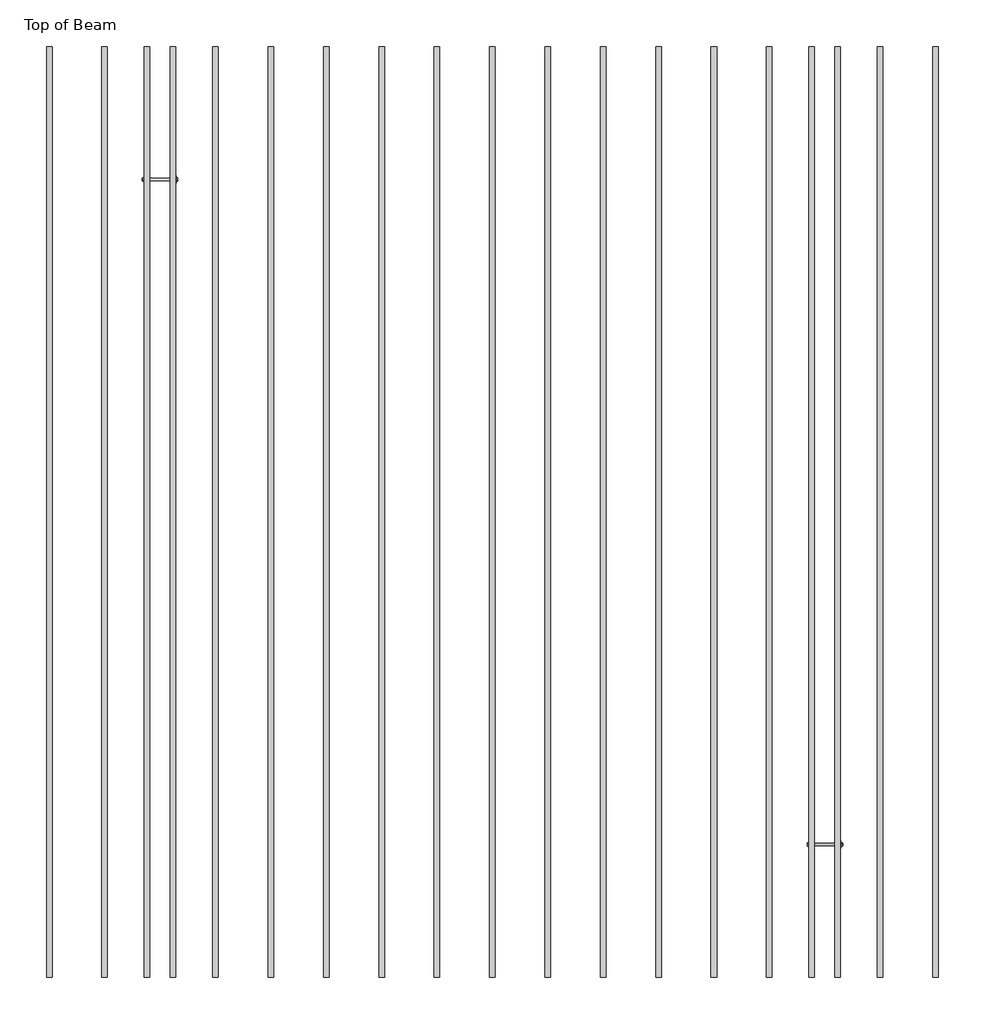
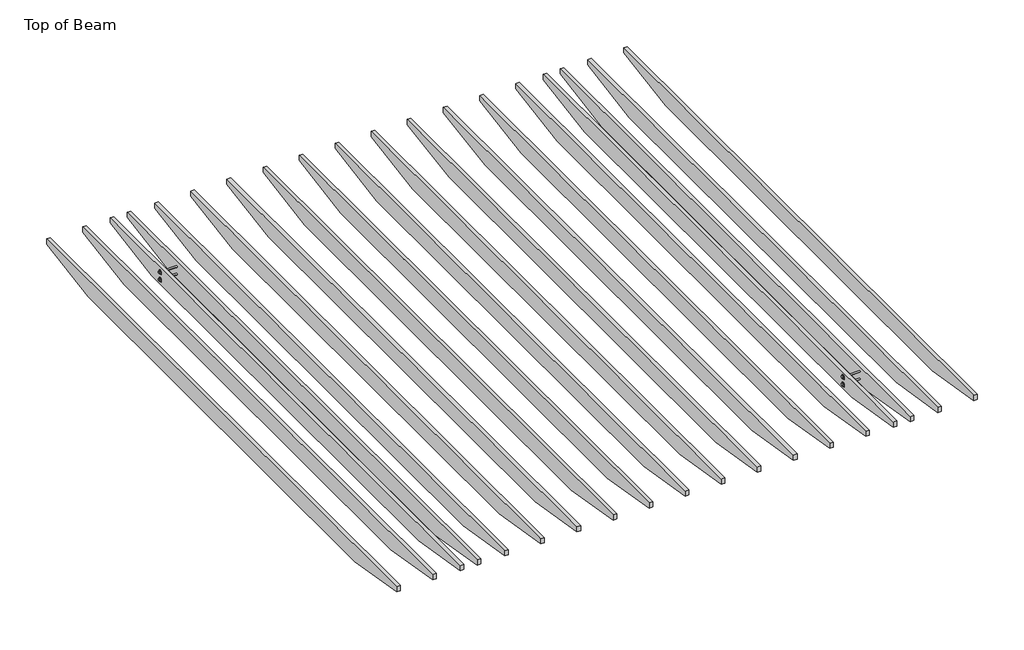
# One storey: 19 beams, 4 proxies.
"""IFC4 building model written with IfcOpenShell, lengths in millimetres."""

from ifc_helpers import new_model, si_unit, origin, place, context, project, spatial, transform, mapped, element, save
from components import x8_c0474165, proxy_280ef96e

model = new_model("IFC4")

# Units and contexts
model_context = context("Model", 3, world=origin())
ifc_project = project(units=[si_unit("LENGTHUNIT", "METRE", prefix="MILLI")], contexts=[model_context])

# Site, building, storey
site = spatial("IfcSite", under=ifc_project)
building = spatial("IfcBuilding", under=site)
storey = spatial("IfcBuildingStorey", under=building, Name="Top of Beam", Elevation=2743.2)

# Beams
placement = place(None, origin())
x8_shape = x8_c0474165(model_context)
element("IfcBeam", 1, ObjectType="Notched Beam : x8", at=placement, inside=storey, context=model_context, shape_type="MappedRepresentation", body=[
    mapped(x8_shape, transform((11109.0468679, 10385.9365582, 2835.275), x_axis=(0.0, 1.0, 0.0), y_axis=(-1.0, 0.0, 0.0), z_axis=(0.0, 0.0, 1.0))),
])
element("IfcBeam", 2, ObjectType="Notched Beam : x8", at=placement, inside=storey, context=model_context, shape_type="MappedRepresentation", body=[
    mapped(x8_shape, transform((11490.0468679, 10385.9365582, 2835.275), x_axis=(0.0, 1.0, 0.0), y_axis=(-1.0, 0.0, 0.0), z_axis=(0.0, 0.0, 1.0))),
])
element("IfcBeam", 3, ObjectType="Notched Beam : x8", at=placement, inside=storey, context=model_context, shape_type="MappedRepresentation", body=[
    mapped(x8_shape, transform((12252.0468679, 10385.9365582, 2835.275), x_axis=(0.0, 1.0, 0.0), y_axis=(-1.0, 0.0, 0.0), z_axis=(0.0, 0.0, 1.0))),
])
element("IfcBeam", 4, ObjectType="Notched Beam : x8", at=placement, inside=storey, context=model_context, shape_type="MappedRepresentation", body=[
    mapped(x8_shape, transform((12633.0468679, 10385.9365582, 2835.275), x_axis=(0.0, 1.0, 0.0), y_axis=(-1.0, 0.0, 0.0), z_axis=(0.0, 0.0, 1.0))),
])
element("IfcBeam", 5, ObjectType="Notched Beam : x8", at=placement, inside=storey, context=model_context, shape_type="MappedRepresentation", body=[
    mapped(x8_shape, transform((13014.0468679, 10385.9365582, 2835.275), x_axis=(0.0, 1.0, 0.0), y_axis=(-1.0, 0.0, 0.0), z_axis=(0.0, 0.0, 1.0))),
])
element("IfcBeam", 6, ObjectType="Notched Beam : x8", at=placement, inside=storey, context=model_context, shape_type="MappedRepresentation", body=[
    mapped(x8_shape, transform((13395.0468679, 10385.9365582, 2835.275), x_axis=(0.0, 1.0, 0.0), y_axis=(-1.0, 0.0, 0.0), z_axis=(0.0, 0.0, 1.0))),
])
element("IfcBeam", 7, ObjectType="Notched Beam : x8", at=placement, inside=storey, context=model_context, shape_type="MappedRepresentation", body=[
    mapped(x8_shape, transform((13776.0468679, 10385.9365582, 2835.275), x_axis=(0.0, 1.0, 0.0), y_axis=(-1.0, 0.0, 0.0), z_axis=(0.0, 0.0, 1.0))),
])
element("IfcBeam", 8, ObjectType="Notched Beam : x8", at=placement, inside=storey, context=model_context, shape_type="MappedRepresentation", body=[
    mapped(x8_shape, transform((14157.0468679, 10385.9365582, 2835.275), x_axis=(0.0, 1.0, 0.0), y_axis=(-1.0, 0.0, 0.0), z_axis=(0.0, 0.0, 1.0))),
])
element("IfcBeam", 9, ObjectType="Notched Beam : x8", at=placement, inside=storey, context=model_context, shape_type="MappedRepresentation", body=[
    mapped(x8_shape, transform((14538.0468679, 10385.9365582, 2835.275), x_axis=(0.0, 1.0, 0.0), y_axis=(-1.0, 0.0, 0.0), z_axis=(0.0, 0.0, 1.0))),
])
element("IfcBeam", 10, ObjectType="Notched Beam : x8", at=placement, inside=storey, context=model_context, shape_type="MappedRepresentation", body=[
    mapped(x8_shape, transform((14919.0468679, 10385.9365582, 2835.275), x_axis=(0.0, 1.0, 0.0), y_axis=(-1.0, 0.0, 0.0), z_axis=(0.0, 0.0, 1.0))),
])
element("IfcBeam", 11, ObjectType="Notched Beam : x8", at=placement, inside=storey, context=model_context, shape_type="MappedRepresentation", body=[
    mapped(x8_shape, transform((15300.0468679, 10385.9365582, 2835.275), x_axis=(0.0, 1.0, 0.0), y_axis=(-1.0, 0.0, 0.0), z_axis=(0.0, 0.0, 1.0))),
])
element("IfcBeam", 12, ObjectType="Notched Beam : x8", at=placement, inside=storey, context=model_context, shape_type="MappedRepresentation", body=[
    mapped(x8_shape, transform((15681.0468679, 10385.9365582, 2835.275), x_axis=(0.0, 1.0, 0.0), y_axis=(-1.0, 0.0, 0.0), z_axis=(0.0, 0.0, 1.0))),
])
element("IfcBeam", 13, ObjectType="Notched Beam : x8", at=placement, inside=storey, context=model_context, shape_type="MappedRepresentation", body=[
    mapped(x8_shape, transform((16062.0468679, 10385.9365582, 2835.275), x_axis=(0.0, 1.0, 0.0), y_axis=(-1.0, 0.0, 0.0), z_axis=(0.0, 0.0, 1.0))),
])
element("IfcBeam", 14, ObjectType="Notched Beam : x8", at=placement, inside=storey, context=model_context, shape_type="MappedRepresentation", body=[
    mapped(x8_shape, transform((11782.1468679, 10385.9365582, 2835.275), x_axis=(0.0, -1.0, 0.0), y_axis=(1.0, 0.0, 0.0), z_axis=(0.0, 0.0, 1.0))),
])
element("IfcBeam", 15, ObjectType="Notched Beam : x8", at=placement, inside=storey, context=model_context, shape_type="MappedRepresentation", body=[
    mapped(x8_shape, transform((11959.9468679, 10385.9365582, 2835.275), x_axis=(0.0, -1.0, 0.0), y_axis=(1.0, 0.0, 0.0), z_axis=(0.0, 0.0, 1.0))),
])
element("IfcBeam", 16, ObjectType="Notched Beam : x8", at=placement, inside=storey, context=model_context, shape_type="MappedRepresentation", body=[
    mapped(x8_shape, transform((16354.1468679, 10385.9365582, 2835.275), x_axis=(0.0, -1.0, 0.0), y_axis=(1.0, 0.0, 0.0), z_axis=(0.0, 0.0, 1.0))),
])
element("IfcBeam", 17, ObjectType="Notched Beam : x8", at=placement, inside=storey, context=model_context, shape_type="MappedRepresentation", body=[
    mapped(x8_shape, transform((16531.9468679, 10385.9365582, 2835.275), x_axis=(0.0, -1.0, 0.0), y_axis=(1.0, 0.0, 0.0), z_axis=(0.0, 0.0, 1.0))),
])
element("IfcBeam", 18, ObjectType="Notched Beam : x8", at=placement, inside=storey, context=model_context, shape_type="MappedRepresentation", body=[
    mapped(x8_shape, transform((16824.0468679, 10385.9365582, 2835.275), x_axis=(0.0, 1.0, 0.0), y_axis=(-1.0, 0.0, 0.0), z_axis=(0.0, 0.0, 1.0))),
])
element("IfcBeam", 19, ObjectType="Notched Beam : x8", at=placement, inside=storey, context=model_context, shape_type="MappedRepresentation", body=[
    mapped(x8_shape, transform((17205.0468679, 10385.9365582, 2835.275), x_axis=(0.0, 1.0, 0.0), y_axis=(-1.0, 0.0, 0.0), z_axis=(0.0, 0.0, 1.0))),
])

# Proxies
proxy_shape = proxy_280ef96e(model_context)
element("IfcBuildingElementProxy", 20, Name="bolt : 5/8\"", ObjectType="bolt : 5/8\"", at=placement, inside=storey, context=model_context, shape_type="MappedRepresentation", body=[
    mapped(proxy_shape, transform((16335.0968679, 8099.9365582, 2877.6868558), x_axis=(0.0, -1.0, 0.0), y_axis=(0.0, 0.0, 1.0), z_axis=(-1.0, 0.0, 0.0))),
])
element("IfcBuildingElementProxy", 21, Name="bolt : 5/8\"", ObjectType="bolt : 5/8\"", at=placement, inside=storey, context=model_context, shape_type="MappedRepresentation", body=[
    mapped(proxy_shape, transform((16335.0968679, 8099.9365582, 2794.1209375), x_axis=(0.0, -1.0, 0.0), y_axis=(0.0, 0.0, 1.0), z_axis=(-1.0, 0.0, 0.0))),
])
element("IfcBuildingElementProxy", 22, Name="bolt : 5/8\"", ObjectType="bolt : 5/8\"", at=placement, inside=storey, context=model_context, shape_type="MappedRepresentation", body=[
    mapped(proxy_shape, transform((11978.9968679, 12671.9365582, 2876.1436), x_axis=(0.0, 1.0, 0.0), y_axis=(0.0, 0.0, 1.0), z_axis=(1.0, 0.0, 0.0))),
])
element("IfcBuildingElementProxy", 23, Name="bolt : 5/8\"", ObjectType="bolt : 5/8\"", at=placement, inside=storey, context=model_context, shape_type="MappedRepresentation", body=[
    mapped(proxy_shape, transform((11978.9968679, 12671.9365582, 2792.9332), x_axis=(0.0, 1.0, 0.0), y_axis=(0.0, 0.0, 1.0), z_axis=(1.0, 0.0, 0.0))),
])

save(model, "model.ifc")
